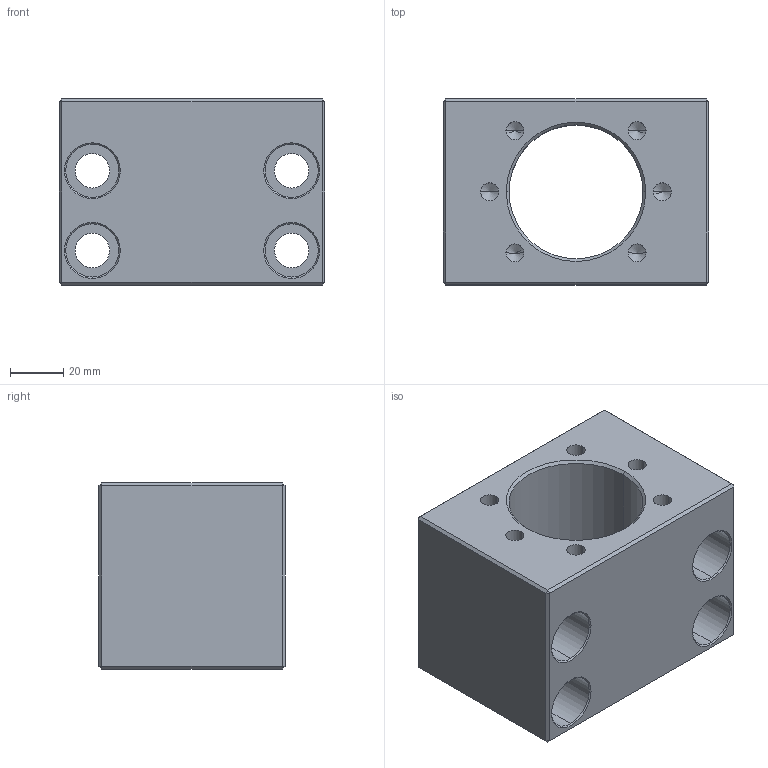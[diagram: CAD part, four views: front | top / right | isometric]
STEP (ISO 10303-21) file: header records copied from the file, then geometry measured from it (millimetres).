
FILE_DESCRIPTION (( 'STEP AP214' ), '1' );
FILE_NAME ('2.4022 Kuulamutterin kotelo MGD32.STEP', '2024-10-22T10:53:42', ( '' ), ( '' ), 'SwSTEP 2.0', 'SolidWorks 2024', '' );
FILE_SCHEMA (( 'AUTOMOTIVE_DESIGN' ));
Length unit declared in the file: millimetre
Products named in the file (1): 2.4022 Kuulamutterin kotelo MGD32
Bounding box: 100 x 70 x 70 mm (x, y, z)
Volume: 293248.8 mm3; surface area: 58652.5 mm2
Topology: 1 solids, 1 shells, 100 faces, 218 edges, 118 vertices
Faces by surface type: cylinder 38, cone 32, plane 30
Entity records: 2637 total; most frequent: DIRECTION 496, CARTESIAN_POINT 425, ORIENTED_EDGE 412, EDGE_CURVE 206, AXIS2_PLACEMENT_3D 189, EDGE_LOOP 120, VECTOR 118, VERTEX_POINT 118
